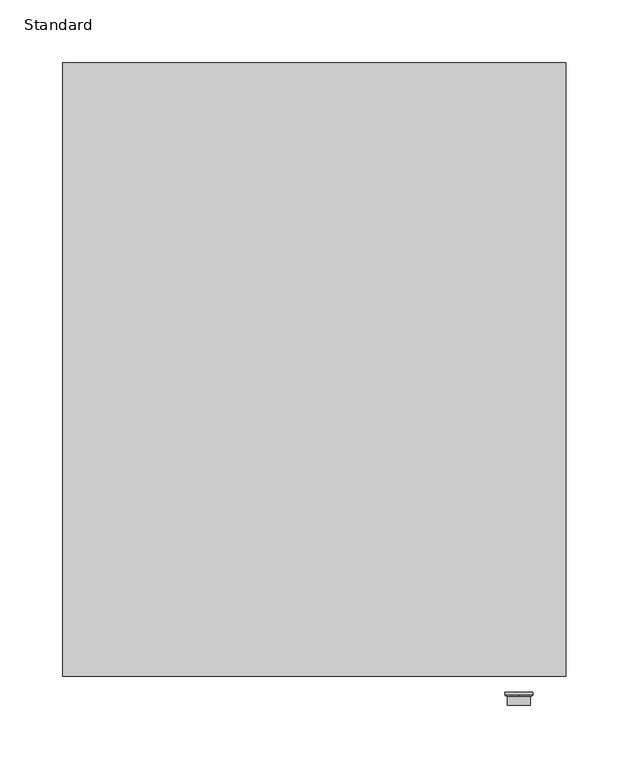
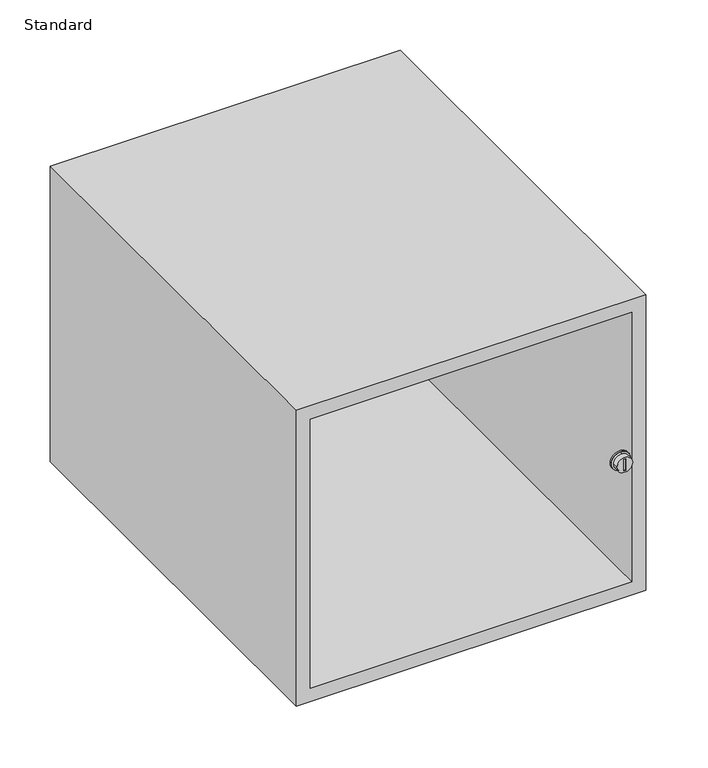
"""IFC4 building model written with IfcOpenShell, lengths in millimetres: furniture geometry, X_Locker-Duracube-Bay : Standard."""

from ifc_helpers import new_model, si_unit, point, frame, frame_2d, origin, place, context, project, spatial, polyline, circle_curve, ellipse_curve, trimmed, segment, composite_curve, outline, extrude, faceted_brep, source, transform, mapped, element, save
from ifc_brep_helpers import plane_surface, revolved_surface, advanced_brep


def standard_40445af7(model_context):
    return source(origin(), model_context, "Body", "SolidModel", [
        extrude(outline(composite_curve([segment(trimmed(circle_curve(frame_2d((178.75, 207.2003264)), 11.0), [point((178.75, 196.2003264))], [point((178.75, 218.2003264))], False, "CARTESIAN"), True, "CONTINUOUS"), segment(trimmed(circle_curve(frame_2d((178.75, 207.2003264)), 11.0), [point((178.75, 218.2003264))], [point((178.75, 196.2003264))], False, "CARTESIAN"), True, "CONTINUOUS")], self_intersect=False)), frame((0.0, -502.0, 0.0), z_axis=(0.0, 1.0, 0.0), x_axis=(0.0, 0.0, 1.0)), (0.0, 0.0, 1.0), 2.0),
        advanced_brep(
        [(207.2003264, -503.0, 169.75), (207.2003264, -503.0, 187.75), (207.2003264, -502.0, 189.75), (207.2003264, -502.0, 167.75), (207.2003264, -502.0, 169.75), (207.2003264, -502.0, 187.75)],
        [
            (0, 1, circle_curve(frame((207.2003264, -503.0, 178.75), z_axis=(0.0, 1.0, 0.0), x_axis=(0.0, 0.0, 1.0)), 9.0)),
            (1, 2, ellipse_curve(frame((207.2003264, -502.0, 187.75), z_axis=(-1.0, 0.0, 0.0), x_axis=(0.0, 0.0, 1.0)), 2.0, 1.0)),
            (2, 3, circle_curve(frame((207.2003264, -502.0, 178.75), z_axis=(0.0, -1.0, 0.0), x_axis=(0.0, 0.0, 1.0)), 11.0)),
            (3, 0, ellipse_curve(frame((207.2003264, -502.0, 169.75), z_axis=(-1.0, 0.0, 0.0), x_axis=(0.0, 0.0, -1.0)), 2.0, 1.0)),
            (1, 0, circle_curve(frame((207.2003264, -503.0, 178.75), z_axis=(0.0, 1.0, 0.0), x_axis=(0.0, 0.0, 1.0)), 9.0)),
            (3, 2, circle_curve(frame((207.2003264, -502.0, 178.75), z_axis=(0.0, -1.0, 0.0), x_axis=(0.0, 0.0, 1.0)), 11.0)),
            (4, 5, circle_curve(frame((207.2003264, -502.0, 178.75), z_axis=(0.0, 1.0, 0.0), x_axis=(0.0, 0.0, 1.0)), 9.0)),
            (5, 1),
            (0, 4),
            (5, 4, circle_curve(frame((207.2003264, -502.0, 178.75), z_axis=(0.0, 1.0, 0.0), x_axis=(0.0, 0.0, 1.0)), 9.0)),
            (2, 5),
            (4, 3),
        ],
        [
            revolved_surface(trimmed(ellipse_curve(frame((207.2003264, -502.0, 187.75), z_axis=(1.0, 0.0, 0.0), x_axis=(0.0, 0.0, 1.0)), 2.0, 1.0), [point((207.2003264, -502.0, 189.75))], [point((207.2003264, -503.0, 187.75))], True, "CARTESIAN"), (207.2003264, -502.0, 178.75), (0.0, -1.0, 0.0)),
            revolved_surface(polyline([(207.2003264, -503.0, 187.75), (207.2003264, -502.0, 187.75)]), (207.2003264, -502.0, 178.75), (0.0, -1.0, 0.0)),
            plane_surface(frame((207.2003264, -502.0, 178.75), z_axis=(0.0, 1.0, 0.0), x_axis=(0.0, 0.0, 1.0))),
        ],
        [
            (0, [[1, 2, 3, 4]]),
            (0, [[5, -4, 6, -2]]),
            (1, [[7, 8, -1, 9]]),
            (1, [[10, -9, -5, -8]]),
            (2, [[-3, 11, -7, 12]]),
            (2, [[-6, -12, -10, -11]]),
        ],
    ),
        extrude(outline(polyline([(208.2003264, -509.0), (206.2003264, -509.0), (206.2003264, -507.0), (208.2003264, -507.0), (208.2003264, -509.0)])), frame((0.0, 0.0, 171.75), z_axis=(0.0, 0.0, 1.0), x_axis=(1.0, 0.0, 0.0)), (0.0, 0.0, 1.0), 14.0),
        extrude(outline(composite_curve([segment(trimmed(circle_curve(frame_2d((178.75, 207.2003264)), 9.0), [point((178.75, 198.2003264))], [point((178.75, 216.2003264))], False, "CARTESIAN"), True, "CONTINUOUS"), segment(trimmed(circle_curve(frame_2d((178.75, 207.2003264)), 9.0), [point((178.75, 216.2003264))], [point((178.75, 198.2003264))], False, "CARTESIAN"), True, "CONTINUOUS")], self_intersect=False), holes=[polyline([(185.75, 208.2003264), (171.75, 208.2003264), (171.75, 206.2003264), (185.75, 206.2003264), (185.75, 208.2003264)])]), frame((0.0, -510.0, 0.0), z_axis=(0.0, 1.0, 0.0), x_axis=(0.0, 0.0, 1.0)), (0.0, 0.0, 1.0), 8.0),
        faceted_brep([(244.7003264, -487.0, 357.5), (-155.2996736, -487.0, 357.5), (-155.2996736, -487.0, 0.0), (244.7003264, -487.0, 0.0), (228.7003264, -487.0, 341.5), (228.7003264, -487.0, 16.0), (-139.2996736, -487.0, 16.0), (-139.2996736, -487.0, 341.5), (244.7003264, 0.0, 357.5), (244.7003264, 0.0, 0.0), (-155.2996736, 0.0, 0.0), (-155.2996736, 0.0, 357.5), (228.7003264, 0.0, 341.5), (-139.2996736, 0.0, 341.5), (-139.2996736, 0.0, 16.0), (228.7003264, 0.0, 16.0), (228.7003264, -26.0, 341.5), (228.7003264, -26.0, 16.0), (228.7003264, -10.0, 16.0), (228.7003264, -10.0, 341.5), (-139.2996736, -26.0, 16.0), (-139.2996736, -10.0, 16.0), (-139.2996736, -26.0, 341.5), (-139.2996736, -10.0, 341.5)], [[[0, 1, 2, 3], [4, 5, 6, 7]], [[8, 9, 10, 11], [12, 13, 14, 15]], [[1, 0, 8, 11]], [[2, 1, 11, 10]], [[3, 2, 10, 9]], [[0, 3, 9, 8]], [[5, 4, 16, 17]], [[12, 15, 18, 19]], [[6, 5, 17, 20]], [[15, 14, 21, 18]], [[7, 6, 20, 22]], [[14, 13, 23, 21]], [[4, 7, 22, 16]], [[13, 12, 19, 23]], [[17, 16, 22, 20]], [[19, 18, 21, 23]]]),
    ])


if __name__ == "__main__":
    model = new_model("IFC4")
    model_context = context("Model", 3, world=origin())
    ifc_project = project(units=[si_unit("LENGTHUNIT", "METRE", prefix="MILLI")], contexts=[model_context])
    site = spatial("IfcSite", under=ifc_project)
    building = spatial("IfcBuilding", under=site)
    placement = place(None, origin())
    standard_shape = standard_40445af7(model_context)
    element("IfcFurniture", 1, ObjectType="X_Locker-Duracube-Bay : Standard", at=placement, inside=building, context=model_context, shape_type="MappedRepresentation", body=[
        mapped(standard_shape, transform((0.0, 0.0, 0.0), x_axis=(1.0, 0.0, 0.0), y_axis=(0.0, 1.0, 0.0), z_axis=(0.0, 0.0, 1.0))),
    ])
    save(model, "model.ifc")
